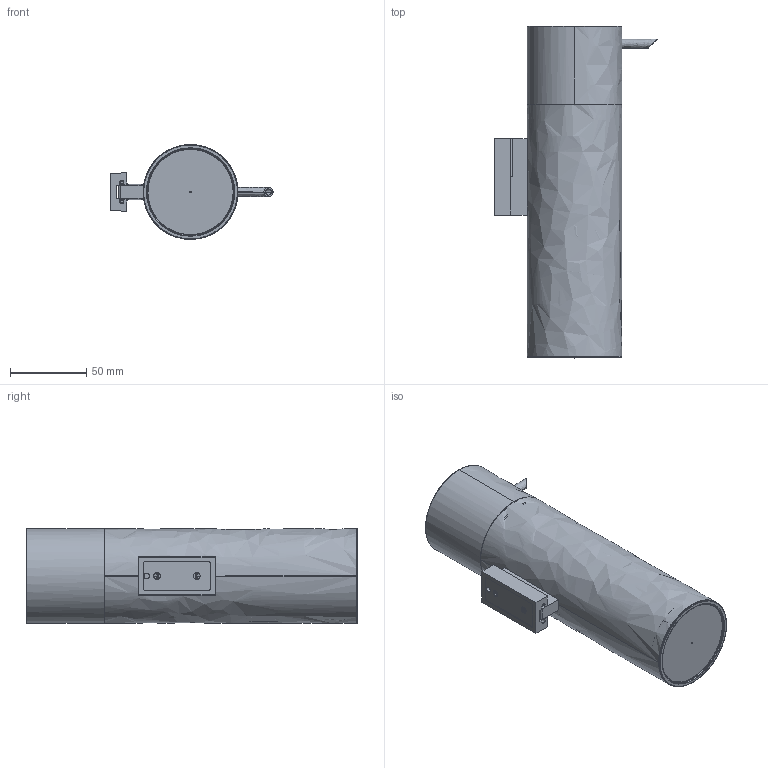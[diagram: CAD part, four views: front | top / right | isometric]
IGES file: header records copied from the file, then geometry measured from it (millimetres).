
Start section: SolidWorks IGES file using NURBS representation for surfaces
Global section: file name: G:\4- VARIOS\9 - Web Files\MICRA\477802###-W.IGS; native system: SolidWorks 2016; preprocessor: SolidWorks 2016; author: vegrut01; date: 210215.113002; units: millimetre
Bounding box: 106.1 x 217.2 x 62 mm (x, y, z)
Surface area: 129557.6 mm2 (no closed solid volume)
Topology: 0 solids, 0 shells, 967 faces, 14486 edges, 16876 vertices
Faces by surface type: bspline 967
